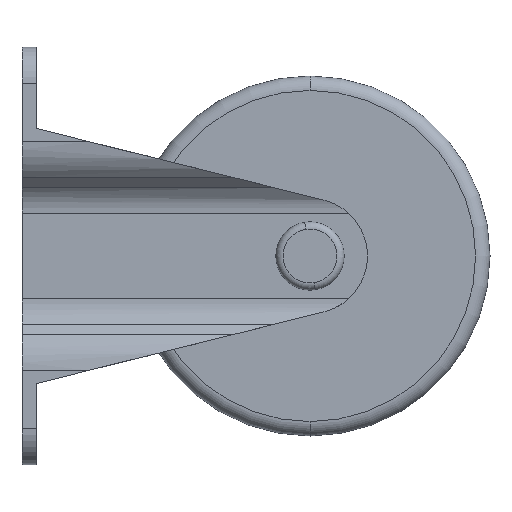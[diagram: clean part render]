
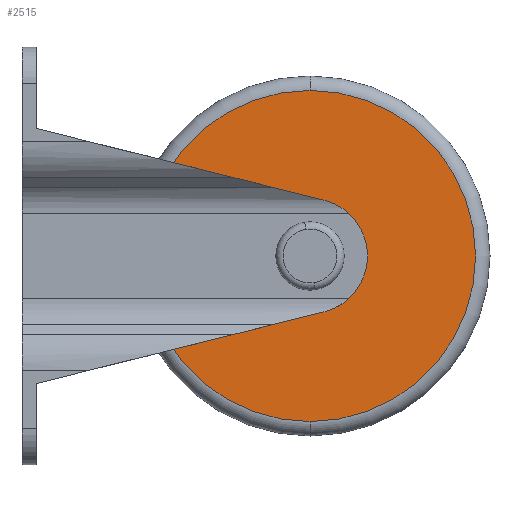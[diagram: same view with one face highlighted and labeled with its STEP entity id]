
A CAD part, left-side view. The second image highlights one B-rep face of the part: STEP entity #2515.
In plain terms, the highlighted planar face has unit normal (-1, 0, 0).
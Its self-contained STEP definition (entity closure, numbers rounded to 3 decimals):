
#11 = CARTESIAN_POINT ( 'NONE',  ( -10., 0., -3.1 ) ) ;
#38 = DIRECTION ( 'NONE',  ( 0., 0., -1. ) ) ;
#153 = ORIENTED_EDGE ( 'NONE', *, *, #2733, .T. ) ;
#206 = FACE_OUTER_BOUND ( 'NONE', #2900, .T. ) ;
#241 = DIRECTION ( 'NONE',  ( 0., 0., -1. ) ) ;
#246 = PLANE ( 'NONE',  #1694 ) ;
#299 = DIRECTION ( 'NONE',  ( 1., 0., 0. ) ) ;
#322 = VERTEX_POINT ( 'NONE', #2624 ) ;
#572 = EDGE_CURVE ( 'NONE', #1289, #1757, #2009, .T. ) ;
#591 = CARTESIAN_POINT ( 'NONE',  ( -10., 0., 0. ) ) ;
#686 = AXIS2_PLACEMENT_3D ( 'NONE', #718, #2529, #2546 ) ;
#714 = DIRECTION ( 'NONE',  ( 1., 0., 0. ) ) ;
#718 = CARTESIAN_POINT ( 'NONE',  ( -10., 0., 0. ) ) ;
#896 = DIRECTION ( 'NONE',  ( -1., 0., 0. ) ) ;
#999 = ORIENTED_EDGE ( 'NONE', *, *, #1823, .T. ) ;
#1033 = VERTEX_POINT ( 'NONE', #1955 ) ;
#1120 = CIRCLE ( 'NONE', #2786, 23. ) ;
#1161 = AXIS2_PLACEMENT_3D ( 'NONE', #2828, #299, #2584 ) ;
#1289 = VERTEX_POINT ( 'NONE', #11 ) ;
#1342 = ORIENTED_EDGE ( 'NONE', *, *, #572, .T. ) ;
#1395 = AXIS2_PLACEMENT_3D ( 'NONE', #591, #1703, #1508 ) ;
#1508 = DIRECTION ( 'NONE',  ( 0., 0., -1. ) ) ;
#1527 = EDGE_LOOP ( 'NONE', ( #1342, #2328 ) ) ;
#1694 = AXIS2_PLACEMENT_3D ( 'NONE', #2715, #714, #38 ) ;
#1703 = DIRECTION ( 'NONE',  ( -1., 0., 0. ) ) ;
#1757 = VERTEX_POINT ( 'NONE', #2339 ) ;
#1808 = FACE_BOUND ( 'NONE', #1527, .T. ) ;
#1823 = EDGE_CURVE ( 'NONE', #322, #1033, #1872, .T. ) ;
#1872 = CIRCLE ( 'NONE', #1395, 23. ) ;
#1955 = CARTESIAN_POINT ( 'NONE',  ( -10., 0., -23. ) ) ;
#2009 = CIRCLE ( 'NONE', #686, 3.1 ) ;
#2025 = CARTESIAN_POINT ( 'NONE',  ( -10., 0., 0. ) ) ;
#2239 = EDGE_CURVE ( 'NONE', #1757, #1289, #2407, .T. ) ;
#2328 = ORIENTED_EDGE ( 'NONE', *, *, #2239, .T. ) ;
#2339 = CARTESIAN_POINT ( 'NONE',  ( -10., 0., 3.1 ) ) ;
#2407 = CIRCLE ( 'NONE', #1161, 3.1 ) ;
#2515 = ADVANCED_FACE ( 'NONE', ( #1808, #206 ), #246, .F. ) ;
#2529 = DIRECTION ( 'NONE',  ( 1., 0., 0. ) ) ;
#2546 = DIRECTION ( 'NONE',  ( 0., 0., -1. ) ) ;
#2584 = DIRECTION ( 'NONE',  ( 0., 0., -1. ) ) ;
#2624 = CARTESIAN_POINT ( 'NONE',  ( -10., 0., 23. ) ) ;
#2715 = CARTESIAN_POINT ( 'NONE',  ( -10., 0., 0. ) ) ;
#2733 = EDGE_CURVE ( 'NONE', #1033, #322, #1120, .T. ) ;
#2786 = AXIS2_PLACEMENT_3D ( 'NONE', #2025, #896, #241 ) ;
#2828 = CARTESIAN_POINT ( 'NONE',  ( -10., 0., 0. ) ) ;
#2900 = EDGE_LOOP ( 'NONE', ( #153, #999 ) ) ;
